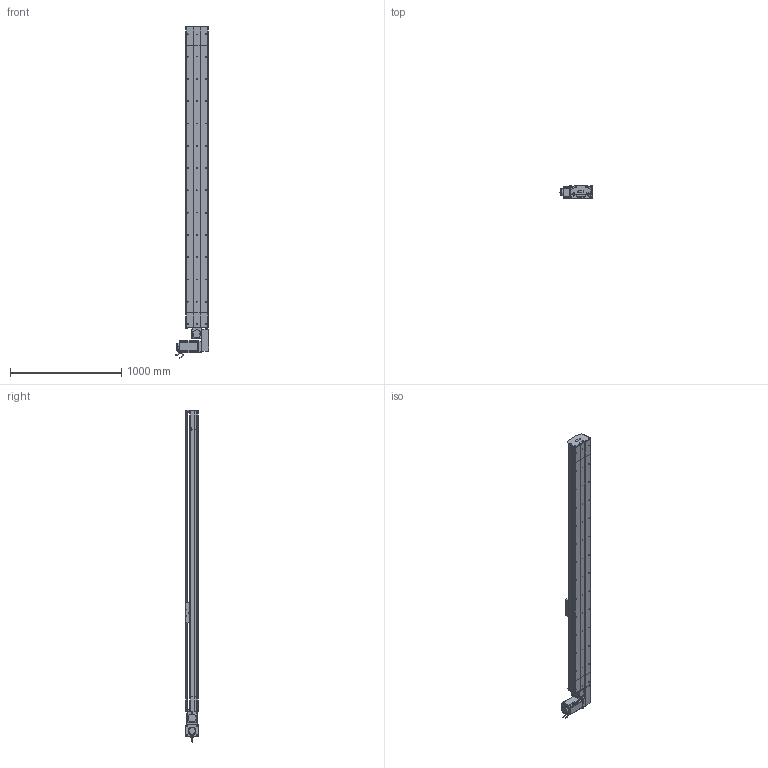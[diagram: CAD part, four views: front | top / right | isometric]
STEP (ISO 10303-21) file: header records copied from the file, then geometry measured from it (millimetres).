
FILE_DESCRIPTION (( 'STEP AP214' ), '1' );
FILE_NAME ('D20 TBH LH S2400.STEP', '2010-07-01T08:07:13', ( 'Conseil Régional Haute-Normandie' ), ( 'Conseil Régional Haute-Normandie' ), 'SwSTEP 2.0', 'SolidWorks 2010', '' );
FILE_SCHEMA (( 'AUTOMOTIVE_DESIGN' ));
Length unit declared in the file: millimetre
Products named in the file (40): Renvoi LH D20_Default; codeur 110BLDC170A-630x; corps 110BLDC170A-630x; avant 110BLDC170A-630x; Conecteur_Default; vis M5 L70_Default; poulie tail D20_Default; Conecteur2_Default; Plaque racord D20LH_Default; clavette; Moteur motionking 110BLDC170A-640x; rail tail D20; vis M5 L8 90°_Default; vis M5 L25_Default; corpl tail D20_Default; tail D20_Default; vis M8 L12_Default; Couroie tail D20_Default; plaque de  bout tail D20_Default; vis M5 L12_Default; tete d''axe poulie D20B; couvercle tail D20_Default; plaque de  bout head D20B LH_Default; guide D20B; corpl head D20_Default; vis M5 L5_Default; couroie_Default; couvercle D20 S2400_Default; poulie head D20_Default; couvercle head D20_Default; corp D20 S2400_Default; Course B L2400_Default; chariot D20B_Default; rail head D20; head LH_Default; rail + couroie  D20 S2400; cache D20_Default; Chariot D20B; D20 TBH LH S2400; cache arbre D20_Default
Assembly tree (71 placements, depth 4):
  D20 TBH LH S2400
    chariot D20B_Default
      Chariot D20B
      guide D20B  x2
      vis M5 L12_Default  x4
    head LH_Default
      vis M5 L12_Default  x10
      corpl head D20_Default
      vis M5 L25_Default  x2
      vis M5 L5_Default  x4
      rail head D20
      vis M8 L12_Default  x4
      vis M5 L70_Default  x4
      Plaque racord D20LH_Default
      cache D20_Default  x2
      couvercle head D20_Default
      Renvoi LH D20_Default
      poulie head D20_Default
      cache arbre D20_Default
      couroie_Default
      Moteur motionking 110BLDC170A-640x
        Conecteur_Default
        avant 110BLDC170A-630x
        clavette
        corps 110BLDC170A-630x
        codeur 110BLDC170A-630x
        Conecteur2_Default
      plaque de  bout head D20B LH_Default
    tail D20_Default
      tete d''axe poulie D20B
      rail tail D20
      vis M5 L25_Default  x2
      Couroie tail D20_Default
      couvercle tail D20_Default
      corpl tail D20_Default
      plaque de  bout tail D20_Default
      vis M5 L12_Default  x4
      poulie tail D20_Default
      vis M5 L8 90°_Default  x2
    Course B L2400_Default
      couvercle D20 S2400_Default
      rail + couroie  D20 S2400
      corp D20 S2400_Default
Bounding box: 304.2 x 115.7 x 2980 mm (x, y, z)
Volume: 23012279.5 mm3; surface area: 5607001 mm2
Topology: 95 solids, 95 shells, 2808 faces, 7158 edges, 4623 vertices
Faces by surface type: plane 1631, cylinder 853, bspline 136, cone 99, torus 89
Entity records: 89733 total; most frequent: CARTESIAN_POINT 29005, ORIENTED_EDGE 10972, DIRECTION 10333, EDGE_CURVE 5486, VERTEX_POINT 3609, LINE 3515, VECTOR 3515, AXIS2_PLACEMENT_3D 3409
